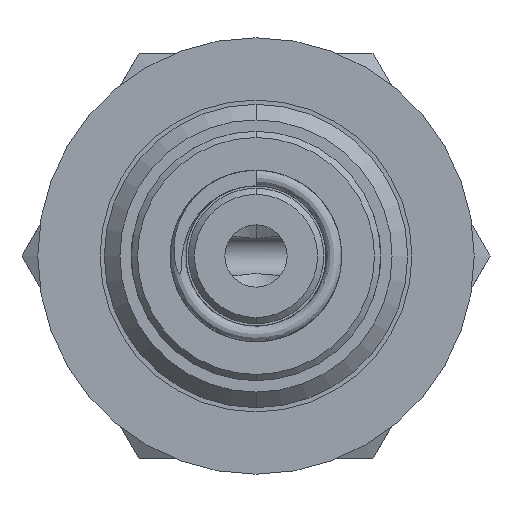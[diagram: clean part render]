
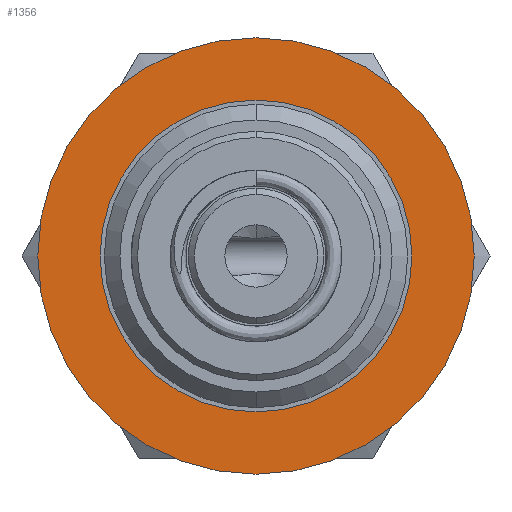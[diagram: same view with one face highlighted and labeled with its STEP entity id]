
A CAD part, front view. The second image highlights one B-rep face of the part: STEP entity #1356.
In plain terms, the highlighted planar face has unit normal (0, -1, 0).
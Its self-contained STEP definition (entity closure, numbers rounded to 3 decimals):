
#187 = AXIS2_PLACEMENT_3D ( 'NONE', #331, #2470, #1726 ) ;
#190 = ORIENTED_EDGE ( 'NONE', *, *, #1273, .F. ) ;
#234 = EDGE_LOOP ( 'NONE', ( #190, #1667 ) ) ;
#331 = CARTESIAN_POINT ( 'NONE',  ( 0., -2.5, 0. ) ) ;
#415 = DIRECTION ( 'NONE',  ( 0., 0., 1. ) ) ;
#439 = VERTEX_POINT ( 'NONE', #4123 ) ;
#462 = CARTESIAN_POINT ( 'NONE',  ( 0., -2.5, 0. ) ) ;
#477 = CARTESIAN_POINT ( 'NONE',  ( 0., -2.5, 5. ) ) ;
#911 = EDGE_CURVE ( 'NONE', #439, #1784, #4300, .T. ) ;
#960 = CARTESIAN_POINT ( 'NONE',  ( 0., -2.5, -7. ) ) ;
#1023 = CARTESIAN_POINT ( 'NONE',  ( 0., -2.5, -5. ) ) ;
#1213 = EDGE_CURVE ( 'NONE', #2445, #1830, #1285, .T. ) ;
#1273 = EDGE_CURVE ( 'NONE', #1784, #439, #1652, .T. ) ;
#1285 = CIRCLE ( 'NONE', #2463, 5. ) ;
#1356 = ADVANCED_FACE ( 'NONE', ( #4027, #3362 ), #2996, .F. ) ;
#1471 = DIRECTION ( 'NONE',  ( 0., 0., 1. ) ) ;
#1652 = CIRCLE ( 'NONE', #3418, 7. ) ;
#1667 = ORIENTED_EDGE ( 'NONE', *, *, #911, .F. ) ;
#1726 = DIRECTION ( 'NONE',  ( 0., 0., 1. ) ) ;
#1784 = VERTEX_POINT ( 'NONE', #960 ) ;
#1830 = VERTEX_POINT ( 'NONE', #1023 ) ;
#2049 = CIRCLE ( 'NONE', #3148, 5. ) ;
#2143 = ORIENTED_EDGE ( 'NONE', *, *, #2902, .T. ) ;
#2277 = CARTESIAN_POINT ( 'NONE',  ( 0., -2.5, 0. ) ) ;
#2445 = VERTEX_POINT ( 'NONE', #477 ) ;
#2463 = AXIS2_PLACEMENT_3D ( 'NONE', #3640, #2510, #415 ) ;
#2470 = DIRECTION ( 'NONE',  ( 0., 1., 0. ) ) ;
#2510 = DIRECTION ( 'NONE',  ( 0., 1., 0. ) ) ;
#2902 = EDGE_CURVE ( 'NONE', #1830, #2445, #2049, .T. ) ;
#2996 = PLANE ( 'NONE',  #4004 ) ;
#3148 = AXIS2_PLACEMENT_3D ( 'NONE', #3368, #3805, #4106 ) ;
#3314 = DIRECTION ( 'NONE',  ( 0., 1., 0. ) ) ;
#3362 = FACE_BOUND ( 'NONE', #3721, .T. ) ;
#3368 = CARTESIAN_POINT ( 'NONE',  ( 0., -2.5, 0. ) ) ;
#3418 = AXIS2_PLACEMENT_3D ( 'NONE', #462, #3314, #1471 ) ;
#3640 = CARTESIAN_POINT ( 'NONE',  ( 0., -2.5, 0. ) ) ;
#3721 = EDGE_LOOP ( 'NONE', ( #2143, #4417 ) ) ;
#3805 = DIRECTION ( 'NONE',  ( 0., 1., 0. ) ) ;
#4004 = AXIS2_PLACEMENT_3D ( 'NONE', #2277, #4122, #4099 ) ;
#4027 = FACE_OUTER_BOUND ( 'NONE', #234, .T. ) ;
#4099 = DIRECTION ( 'NONE',  ( 0., 0., 1. ) ) ;
#4106 = DIRECTION ( 'NONE',  ( 0., 0., 1. ) ) ;
#4122 = DIRECTION ( 'NONE',  ( 0., 1., 0. ) ) ;
#4123 = CARTESIAN_POINT ( 'NONE',  ( 0., -2.5, 7. ) ) ;
#4300 = CIRCLE ( 'NONE', #187, 7. ) ;
#4417 = ORIENTED_EDGE ( 'NONE', *, *, #1213, .T. ) ;
